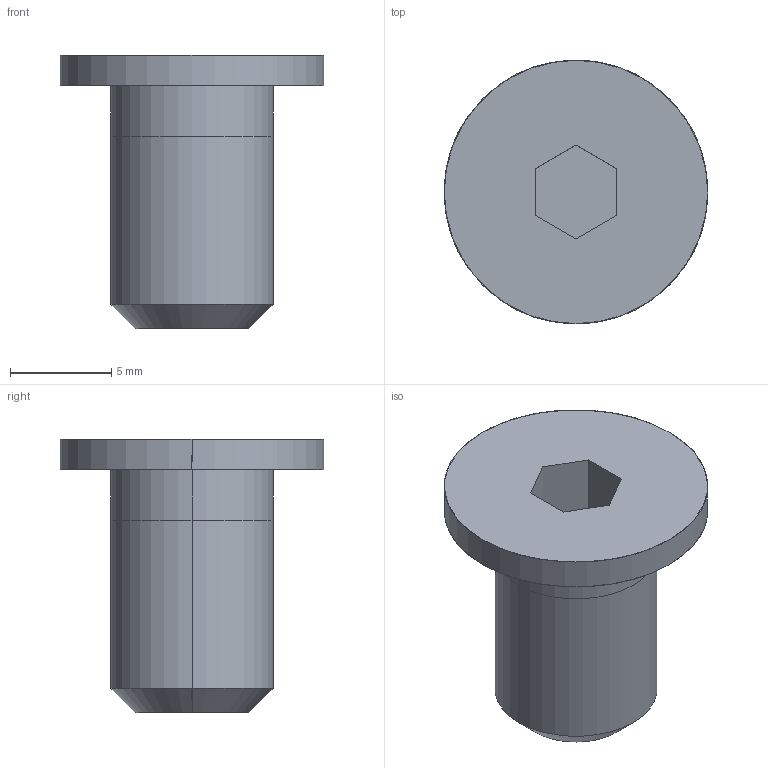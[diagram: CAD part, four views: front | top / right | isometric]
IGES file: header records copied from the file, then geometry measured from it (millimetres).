
Global section: file name: E:\UnigraphicsGraphicData\MISUMI_PRESS-PARTS\IGES\3d_cbss8-12_03502_r00.igs; native system: NX V5.0; preprocessor: UGS NX IGES V5.0; author: MISUMI; date: 20110105.160203; units: millimetre
Bounding box: 13 x 13 x 13.5 mm (x, y, z)
Surface area: 678.8 mm2 (no closed solid volume)
Topology: 0 solids, 0 shells, 18 faces, 100 edges, 100 vertices
Faces by surface type: bspline 18
